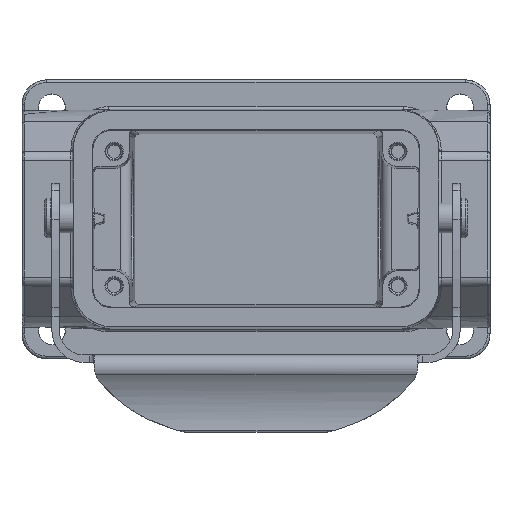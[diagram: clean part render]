
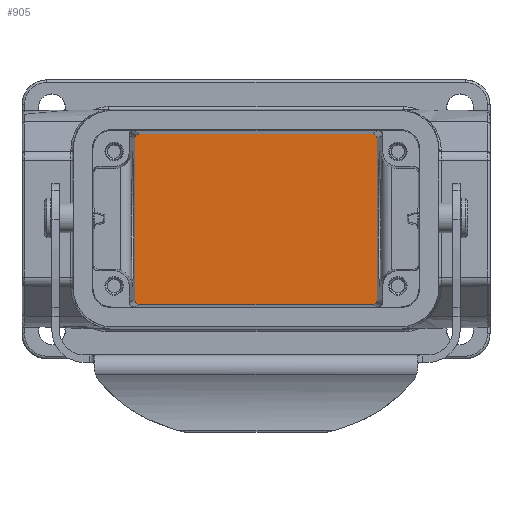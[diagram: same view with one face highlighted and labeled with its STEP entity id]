
A CAD part, top view. The second image highlights one B-rep face of the part: STEP entity #905.
In plain terms, the highlighted planar face has unit normal (0, 0, 1).
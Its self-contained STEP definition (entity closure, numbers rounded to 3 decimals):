
#64=ELLIPSE('',#6940,1.,1.);
#65=ELLIPSE('',#6942,1.,1.);
#76=ELLIPSE('',#6964,1.,1.);
#77=ELLIPSE('',#6966,1.,1.);
#298=PLANE('',#6967);
#905=ADVANCED_FACE('',(#1425),#298,.T.);
#1425=FACE_OUTER_BOUND('',#1831,.T.);
#1831=EDGE_LOOP('',(#3314,#3315,#3316,#3317,#3318,#3319,#3320,#3321));
#3314=ORIENTED_EDGE('',*,*,#5430,.T.);
#3315=ORIENTED_EDGE('',*,*,#5398,.T.);
#3316=ORIENTED_EDGE('',*,*,#5402,.T.);
#3317=ORIENTED_EDGE('',*,*,#5431,.T.);
#3318=ORIENTED_EDGE('',*,*,#5403,.T.);
#3319=ORIENTED_EDGE('',*,*,#5354,.T.);
#3320=ORIENTED_EDGE('',*,*,#5429,.T.);
#3321=ORIENTED_EDGE('',*,*,#5432,.T.);
#4576=VERTEX_POINT('',#13267);
#4577=VERTEX_POINT('',#13269);
#4611=VERTEX_POINT('',#13392);
#4612=VERTEX_POINT('',#13394);
#4614=VERTEX_POINT('',#13400);
#4615=VERTEX_POINT('',#13404);
#4630=VERTEX_POINT('',#13456);
#4631=VERTEX_POINT('',#13460);
#5354=EDGE_CURVE('',#4577,#4576,#6002,.T.);
#5398=EDGE_CURVE('',#4612,#4611,#6031,.T.);
#5402=EDGE_CURVE('',#4611,#4614,#64,.T.);
#5403=EDGE_CURVE('',#4615,#4577,#65,.T.);
#5429=EDGE_CURVE('',#4576,#4630,#76,.T.);
#5430=EDGE_CURVE('',#4631,#4612,#77,.T.);
#5431=EDGE_CURVE('',#4614,#4615,#6046,.T.);
#5432=EDGE_CURVE('',#4630,#4631,#6047,.T.);
#6002=LINE('',#13268,#6390);
#6031=LINE('',#13393,#6419);
#6046=LINE('',#13461,#6434);
#6047=LINE('',#13462,#6435);
#6390=VECTOR('',#8069,1.);
#6419=VECTOR('',#8148,1.);
#6434=VECTOR('',#8221,1.);
#6435=VECTOR('',#8222,1.);
#6940=AXIS2_PLACEMENT_3D('',#13401,#8155,#8156);
#6942=AXIS2_PLACEMENT_3D('',#13403,#8159,#8160);
#6964=AXIS2_PLACEMENT_3D('',#13457,#8215,#8216);
#6966=AXIS2_PLACEMENT_3D('',#13459,#8219,#8220);
#6967=AXIS2_PLACEMENT_3D('',#13463,#8223,#8224);
#8069=DIRECTION('',(0.,-1.,0.));
#8148=DIRECTION('',(0.,1.,0.));
#8155=DIRECTION('',(0.,0.,1.));
#8156=DIRECTION('',(-0.894,-0.447,0.));
#8159=DIRECTION('',(0.,0.,1.));
#8160=DIRECTION('',(-0.894,0.447,0.));
#8215=DIRECTION('',(0.,0.,1.));
#8216=DIRECTION('',(0.894,0.447,0.));
#8219=DIRECTION('',(0.,0.,1.));
#8220=DIRECTION('',(0.894,-0.447,0.));
#8221=DIRECTION('',(-1.,0.,0.));
#8222=DIRECTION('',(1.,0.,0.));
#8223=DIRECTION('',(0.,0.,1.));
#8224=DIRECTION('',(-1.,0.,0.));
#13267=CARTESIAN_POINT('',(-24.358,-16.181,-48.8));
#13268=CARTESIAN_POINT('',(-24.358,0.,-48.8));
#13269=CARTESIAN_POINT('',(-24.358,16.181,-48.8));
#13392=CARTESIAN_POINT('',(24.358,16.181,-48.8));
#13393=CARTESIAN_POINT('',(24.358,0.,-48.8));
#13394=CARTESIAN_POINT('',(24.358,-16.181,-48.8));
#13400=CARTESIAN_POINT('',(23.358,17.18,-48.8));
#13401=CARTESIAN_POINT('',(23.358,16.18,-48.8));
#13403=CARTESIAN_POINT('',(-23.358,16.18,-48.8));
#13404=CARTESIAN_POINT('',(-23.358,17.18,-48.8));
#13456=CARTESIAN_POINT('',(-23.358,-17.18,-48.8));
#13457=CARTESIAN_POINT('',(-23.358,-16.18,-48.8));
#13459=CARTESIAN_POINT('',(23.358,-16.18,-48.8));
#13460=CARTESIAN_POINT('',(23.358,-17.18,-48.8));
#13461=CARTESIAN_POINT('',(52.31,17.18,-48.8));
#13462=CARTESIAN_POINT('',(-31.81,-17.18,-48.8));
#13463=CARTESIAN_POINT('',(10.25,0.,-48.8));
